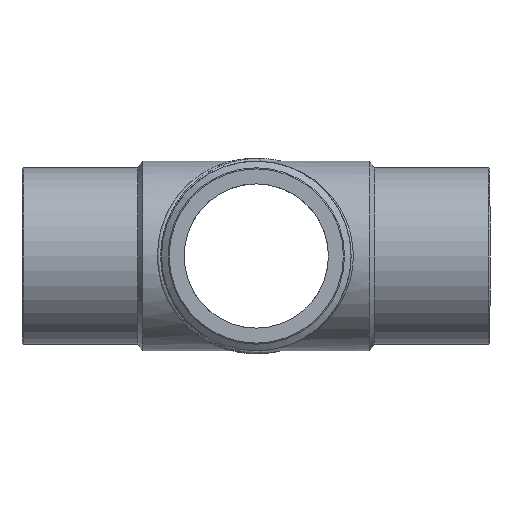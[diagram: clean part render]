
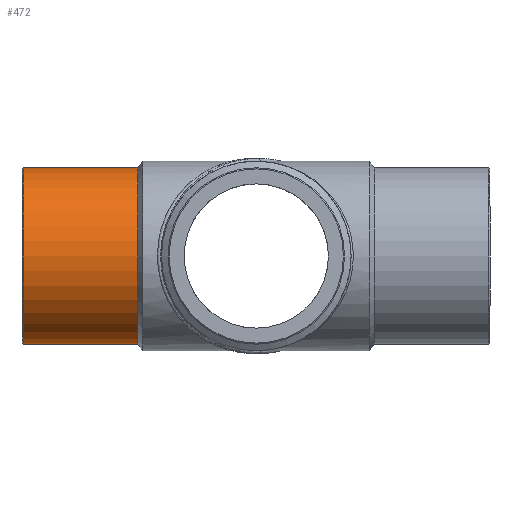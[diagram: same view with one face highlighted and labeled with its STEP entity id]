
A CAD part, front view. The second image highlights one B-rep face of the part: STEP entity #472.
In plain terms, the highlighted cylindrical face has radius 80 mm (diameter 160 mm), a full revolution.
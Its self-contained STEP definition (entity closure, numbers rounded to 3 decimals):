
#46=CIRCLE('',#536,80.);
#47=CIRCLE('',#538,80.);
#70=CYLINDRICAL_SURFACE('',#537,80.);
#123=ORIENTED_EDGE('',*,*,#241,.T.);
#124=ORIENTED_EDGE('',*,*,#240,.T.);
#240=EDGE_CURVE('',#299,#299,#46,.T.);
#241=EDGE_CURVE('',#300,#300,#47,.T.);
#299=VERTEX_POINT('',#930);
#300=VERTEX_POINT('',#933);
#354=EDGE_LOOP('',(#123));
#355=EDGE_LOOP('',(#124));
#412=FACE_BOUND('',#354,.T.);
#413=FACE_BOUND('',#355,.T.);
#472=ADVANCED_FACE('',(#412,#413),#70,.T.);
#536=AXIS2_PLACEMENT_3D('',#929,#610,#611);
#537=AXIS2_PLACEMENT_3D('',#931,#612,#613);
#538=AXIS2_PLACEMENT_3D('',#932,#614,#615);
#610=DIRECTION('',(-1.,0.,0.));
#611=DIRECTION('',(0.,0.,1.));
#612=DIRECTION('',(-1.,0.,0.));
#613=DIRECTION('',(0.,0.,1.));
#614=DIRECTION('',(1.,0.,0.));
#615=DIRECTION('',(0.,0.,-1.));
#929=CARTESIAN_POINT('',(-107.5,0.,0.));
#930=CARTESIAN_POINT('',(-107.5,0.,80.));
#931=CARTESIAN_POINT('',(-60.,0.,0.));
#932=CARTESIAN_POINT('',(-211.5,0.,0.));
#933=CARTESIAN_POINT('',(-211.5,0.,-80.));
